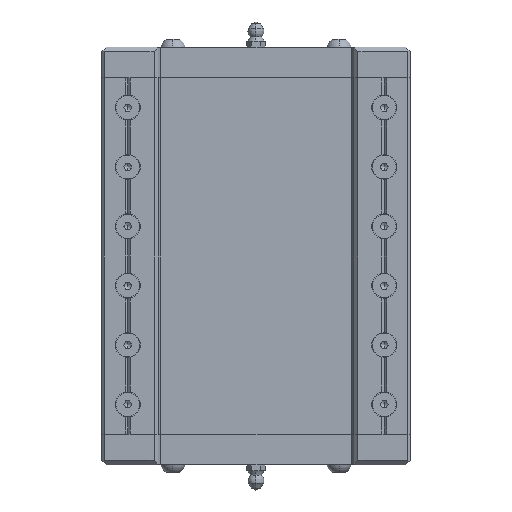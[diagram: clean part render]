
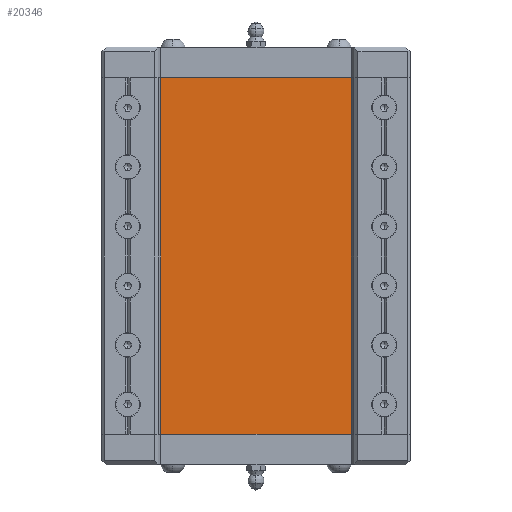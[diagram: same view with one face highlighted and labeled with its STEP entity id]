
A CAD part, left-side view. The second image highlights one B-rep face of the part: STEP entity #20346.
In plain terms, the highlighted planar face has unit normal (-1, 0, 0).
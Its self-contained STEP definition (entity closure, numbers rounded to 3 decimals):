
#314 = CARTESIAN_POINT ( 'NONE',  ( 18., 40.188, 37.5 ) ) ;
#360 = CARTESIAN_POINT ( 'NONE',  ( 18., -40.188, 37.5 ) ) ;
#361 = DIRECTION ( 'NONE',  ( 0., 1., 0. ) ) ;
#362 = VECTOR ( 'NONE', #361, 1000. ) ;
#363 = CARTESIAN_POINT ( 'NONE',  ( 18., 40.188, 37.5 ) ) ;
#364 = LINE ( 'NONE', #363, #362 ) ;
#15991 = DIRECTION ( 'NONE',  ( 0., 0., 1. ) ) ;
#15992 = DIRECTION ( 'NONE',  ( -1., 0., 0. ) ) ;
#15993 = CARTESIAN_POINT ( 'NONE',  ( 18., -40.188, -37.5 ) ) ;
#15994 = AXIS2_PLACEMENT_3D ( 'NONE', #15993, #15992, #15991 ) ;
#15995 = PLANE ( 'NONE',  #15994 ) ;
#15996 = FACE_OUTER_BOUND ( 'NONE', #20545, .T. ) ;
#16169 = CARTESIAN_POINT ( 'NONE',  ( 18., 40.188, -112.5 ) ) ;
#16170 = DIRECTION ( 'NONE',  ( 0., 0., 1. ) ) ;
#16171 = VECTOR ( 'NONE', #16170, 1000. ) ;
#16172 = CARTESIAN_POINT ( 'NONE',  ( 18., 40.188, -37.5 ) ) ;
#16173 = LINE ( 'NONE', #16172, #16171 ) ;
#16203 = CARTESIAN_POINT ( 'NONE',  ( 18., -40.188, -112.5 ) ) ;
#16204 = DIRECTION ( 'NONE',  ( 0., 0., 1. ) ) ;
#16205 = VECTOR ( 'NONE', #16204, 1000. ) ;
#16206 = CARTESIAN_POINT ( 'NONE',  ( 18., -40.188, -37.5 ) ) ;
#16207 = LINE ( 'NONE', #16206, #16205 ) ;
#16208 = DIRECTION ( 'NONE',  ( 0., 1., 0. ) ) ;
#16209 = VECTOR ( 'NONE', #16208, 1000. ) ;
#16210 = CARTESIAN_POINT ( 'NONE',  ( 18., 40.188, -112.5 ) ) ;
#16211 = LINE ( 'NONE', #16210, #16209 ) ;
#20346 = ADVANCED_FACE ( 'NONE', ( #15996 ), #15995, .T. ) ;
#20514 = EDGE_CURVE ( 'NONE', #20515, #21361, #16173, .T. ) ;
#20515 = VERTEX_POINT ( 'NONE', #16169 ) ;
#20541 = ORIENTED_EDGE ( 'NONE', *, *, #20514, .F. ) ;
#20542 = ORIENTED_EDGE ( 'NONE', *, *, #20543, .F. ) ;
#20543 = EDGE_CURVE ( 'NONE', #20548, #20515, #16211, .T. ) ;
#20545 = EDGE_LOOP ( 'NONE', ( #20546, #20549, #20541, #20542 ) ) ;
#20546 = ORIENTED_EDGE ( 'NONE', *, *, #20547, .T. ) ;
#20547 = EDGE_CURVE ( 'NONE', #20548, #21374, #16207, .T. ) ;
#20548 = VERTEX_POINT ( 'NONE', #16203 ) ;
#20549 = ORIENTED_EDGE ( 'NONE', *, *, #21373, .T. ) ;
#21361 = VERTEX_POINT ( 'NONE', #314 ) ;
#21373 = EDGE_CURVE ( 'NONE', #21374, #21361, #364, .T. ) ;
#21374 = VERTEX_POINT ( 'NONE', #360 ) ;
